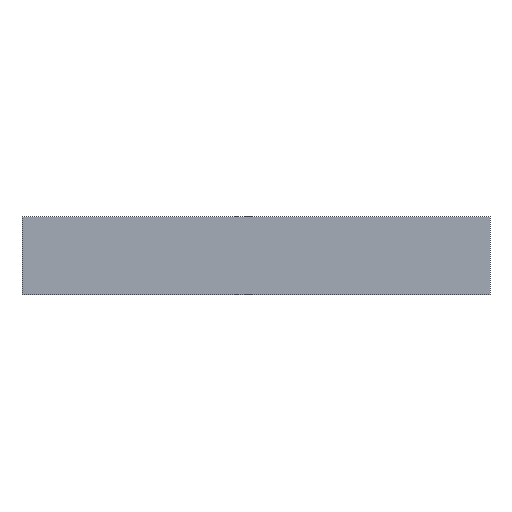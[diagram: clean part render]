
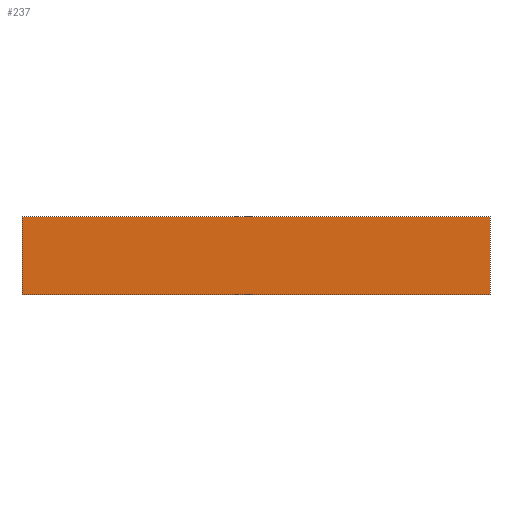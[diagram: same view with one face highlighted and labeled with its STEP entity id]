
A CAD part, front view. The second image highlights one B-rep face of the part: STEP entity #237.
In plain terms, the highlighted planar face has unit normal (0, -1, 0).
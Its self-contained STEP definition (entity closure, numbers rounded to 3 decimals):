
#21 = EDGE_CURVE('',#22,#24,#26,.T.);
#22 = VERTEX_POINT('',#23);
#23 = CARTESIAN_POINT('',(-353.,-145.913,-1.));
#24 = VERTEX_POINT('',#25);
#25 = CARTESIAN_POINT('',(-353.,-145.913,0.));
#26 = SURFACE_CURVE('',#27,(#31,#43),.PCURVE_S1.);
#27 = LINE('',#28,#29);
#28 = CARTESIAN_POINT('',(-353.,-145.913,-1.));
#29 = VECTOR('',#30,1.);
#30 = DIRECTION('',(0.,0.,1.));
#31 = PCURVE('',#32,#37);
#32 = PLANE('',#33);
#33 = AXIS2_PLACEMENT_3D('',#34,#35,#36);
#34 = CARTESIAN_POINT('',(-353.,-145.913,-1.));
#35 = DIRECTION('',(1.,0.,-0.));
#36 = DIRECTION('',(0.,0.,1.));
#37 = DEFINITIONAL_REPRESENTATION('',(#38),#42);
#38 = LINE('',#39,#40);
#39 = CARTESIAN_POINT('',(0.,0.));
#40 = VECTOR('',#41,1.);
#41 = DIRECTION('',(1.,0.));
#42 = ( GEOMETRIC_REPRESENTATION_CONTEXT(2) 
PARAMETRIC_REPRESENTATION_CONTEXT() REPRESENTATION_CONTEXT('2D SPACE',''
  ) );
#43 = PCURVE('',#44,#49);
#44 = PLANE('',#45);
#45 = AXIS2_PLACEMENT_3D('',#46,#47,#48);
#46 = CARTESIAN_POINT('',(-353.,-145.913,-1.));
#47 = DIRECTION('',(-0.,1.,0.));
#48 = DIRECTION('',(0.,0.,1.));
#49 = DEFINITIONAL_REPRESENTATION('',(#50),#54);
#50 = LINE('',#51,#52);
#51 = CARTESIAN_POINT('',(0.,0.));
#52 = VECTOR('',#53,1.);
#53 = DIRECTION('',(1.,0.));
#54 = ( GEOMETRIC_REPRESENTATION_CONTEXT(2) 
PARAMETRIC_REPRESENTATION_CONTEXT() REPRESENTATION_CONTEXT('2D SPACE',''
  ) );
#72 = PLANE('',#73);
#73 = AXIS2_PLACEMENT_3D('',#74,#75,#76);
#74 = CARTESIAN_POINT('',(-353.,-145.913,-1.));
#75 = DIRECTION('',(0.,0.,1.));
#76 = DIRECTION('',(1.,0.,-0.));
#126 = PLANE('',#127);
#127 = AXIS2_PLACEMENT_3D('',#128,#129,#130);
#128 = CARTESIAN_POINT('',(-353.,-145.913,0.));
#129 = DIRECTION('',(0.,0.,1.));
#130 = DIRECTION('',(1.,0.,-0.));
#141 = EDGE_CURVE('',#142,#144,#146,.T.);
#142 = VERTEX_POINT('',#143);
#143 = CARTESIAN_POINT('',(-347.,-145.913,-1.));
#144 = VERTEX_POINT('',#145);
#145 = CARTESIAN_POINT('',(-347.,-145.913,0.));
#146 = SURFACE_CURVE('',#147,(#151,#163),.PCURVE_S1.);
#147 = LINE('',#148,#149);
#148 = CARTESIAN_POINT('',(-347.,-145.913,-1.));
#149 = VECTOR('',#150,1.);
#150 = DIRECTION('',(0.,0.,1.));
#151 = PCURVE('',#152,#157);
#152 = PLANE('',#153);
#153 = AXIS2_PLACEMENT_3D('',#154,#155,#156);
#154 = CARTESIAN_POINT('',(-347.,-145.913,-1.));
#155 = DIRECTION('',(1.,0.,-0.));
#156 = DIRECTION('',(0.,0.,1.));
#157 = DEFINITIONAL_REPRESENTATION('',(#158),#162);
#158 = LINE('',#159,#160);
#159 = CARTESIAN_POINT('',(0.,0.));
#160 = VECTOR('',#161,1.);
#161 = DIRECTION('',(1.,0.));
#162 = ( GEOMETRIC_REPRESENTATION_CONTEXT(2) 
PARAMETRIC_REPRESENTATION_CONTEXT() REPRESENTATION_CONTEXT('2D SPACE',''
  ) );
#163 = PCURVE('',#44,#164);
#164 = DEFINITIONAL_REPRESENTATION('',(#165),#169);
#165 = LINE('',#166,#167);
#166 = CARTESIAN_POINT('',(0.,6.));
#167 = VECTOR('',#168,1.);
#168 = DIRECTION('',(1.,0.));
#169 = ( GEOMETRIC_REPRESENTATION_CONTEXT(2) 
PARAMETRIC_REPRESENTATION_CONTEXT() REPRESENTATION_CONTEXT('2D SPACE',''
  ) );
#237 = ADVANCED_FACE('',(#238),#44,.F.);
#238 = FACE_BOUND('',#239,.F.);
#239 = EDGE_LOOP('',(#240,#261,#262,#283));
#240 = ORIENTED_EDGE('',*,*,#241,.F.);
#241 = EDGE_CURVE('',#22,#142,#242,.T.);
#242 = SURFACE_CURVE('',#243,(#247,#254),.PCURVE_S1.);
#243 = LINE('',#244,#245);
#244 = CARTESIAN_POINT('',(-353.,-145.913,-1.));
#245 = VECTOR('',#246,1.);
#246 = DIRECTION('',(1.,0.,-0.));
#247 = PCURVE('',#44,#248);
#248 = DEFINITIONAL_REPRESENTATION('',(#249),#253);
#249 = LINE('',#250,#251);
#250 = CARTESIAN_POINT('',(0.,0.));
#251 = VECTOR('',#252,1.);
#252 = DIRECTION('',(0.,1.));
#253 = ( GEOMETRIC_REPRESENTATION_CONTEXT(2) 
PARAMETRIC_REPRESENTATION_CONTEXT() REPRESENTATION_CONTEXT('2D SPACE',''
  ) );
#254 = PCURVE('',#72,#255);
#255 = DEFINITIONAL_REPRESENTATION('',(#256),#260);
#256 = LINE('',#257,#258);
#257 = CARTESIAN_POINT('',(0.,0.));
#258 = VECTOR('',#259,1.);
#259 = DIRECTION('',(1.,0.));
#260 = ( GEOMETRIC_REPRESENTATION_CONTEXT(2) 
PARAMETRIC_REPRESENTATION_CONTEXT() REPRESENTATION_CONTEXT('2D SPACE',''
  ) );
#261 = ORIENTED_EDGE('',*,*,#21,.T.);
#262 = ORIENTED_EDGE('',*,*,#263,.T.);
#263 = EDGE_CURVE('',#24,#144,#264,.T.);
#264 = SURFACE_CURVE('',#265,(#269,#276),.PCURVE_S1.);
#265 = LINE('',#266,#267);
#266 = CARTESIAN_POINT('',(-353.,-145.913,0.));
#267 = VECTOR('',#268,1.);
#268 = DIRECTION('',(1.,0.,-0.));
#269 = PCURVE('',#44,#270);
#270 = DEFINITIONAL_REPRESENTATION('',(#271),#275);
#271 = LINE('',#272,#273);
#272 = CARTESIAN_POINT('',(1.,0.));
#273 = VECTOR('',#274,1.);
#274 = DIRECTION('',(0.,1.));
#275 = ( GEOMETRIC_REPRESENTATION_CONTEXT(2) 
PARAMETRIC_REPRESENTATION_CONTEXT() REPRESENTATION_CONTEXT('2D SPACE',''
  ) );
#276 = PCURVE('',#126,#277);
#277 = DEFINITIONAL_REPRESENTATION('',(#278),#282);
#278 = LINE('',#279,#280);
#279 = CARTESIAN_POINT('',(0.,0.));
#280 = VECTOR('',#281,1.);
#281 = DIRECTION('',(1.,0.));
#282 = ( GEOMETRIC_REPRESENTATION_CONTEXT(2) 
PARAMETRIC_REPRESENTATION_CONTEXT() REPRESENTATION_CONTEXT('2D SPACE',''
  ) );
#283 = ORIENTED_EDGE('',*,*,#141,.F.);
